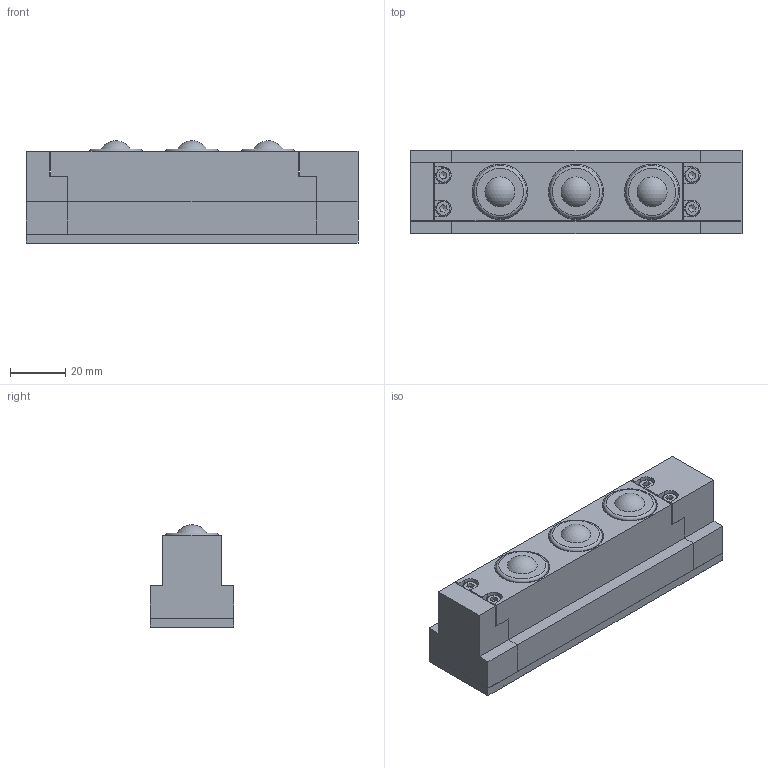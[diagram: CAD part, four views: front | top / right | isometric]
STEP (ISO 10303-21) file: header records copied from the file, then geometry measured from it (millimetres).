
FILE_DESCRIPTION(/* description */ (''),/* implementation_level */ '2;1');
FILE_NAME(/* name */ 'Z:\34-Tei\01-web 3Dデータ\44-ISR-22T\X2\578B\X0\\ISR-22T-120.stp',/* time_stamp */ '2015-01-16T11:15:44+09:00',/* author */ ('yamaki'),/* organization */ (''),/* preprocessor_version */ 'ST-DEVELOPER v15.6',/* originating_system */ 'Autodesk Inventor 2015',/* authorisation */ '');
FILE_SCHEMA (('AUTOMOTIVE_DESIGN { 1 0 10303 214 3 1 1 }'));
Length unit declared in the file: millimetre
Products named in the file (9): 4A03SL; JIS B 1176 - M3 x 10; A213AA; 4A03PS; JIS B 1111 - Csunk M4 x 8 - H; 4A03BA-01; 4A03TB; 4A03CB; 4A03AA
Bounding box: 120 x 30 x 36.96 mm (x, y, z)
Volume: 85923.9 mm3; surface area: 49641.4 mm2
Topology: 26 solids, 26 shells, 664 faces, 1630 edges, 1039 vertices
Faces by surface type: plane 256, cone 190, cylinder 132, torus 83, sphere 3
Full cylindrical faces by diameter (mm): 2 x3, 2.459 x4, 2.5 x2, 3 x4, 3.242 x12, 3.5 x4, 3.571 x12, 4 x12, 4.5 x12, 5.5 x4, 6 x3, 6.1 x3, 6.2 x2, 8.4 x12, 8.566 x1, 13 x3, 16.5 x3, 19 x3, 19.9 x3, 20 x9, 23.8 x6, 24 x3
Entity records: 6664 total; most frequent: CARTESIAN_POINT 1267, DIRECTION 1134, ORIENTED_EDGE 884, AXIS2_PLACEMENT_3D 463, EDGE_CURVE 442, EDGE_LOOP 396, VERTEX_POINT 336, FACE_OUTER_BOUND 236
